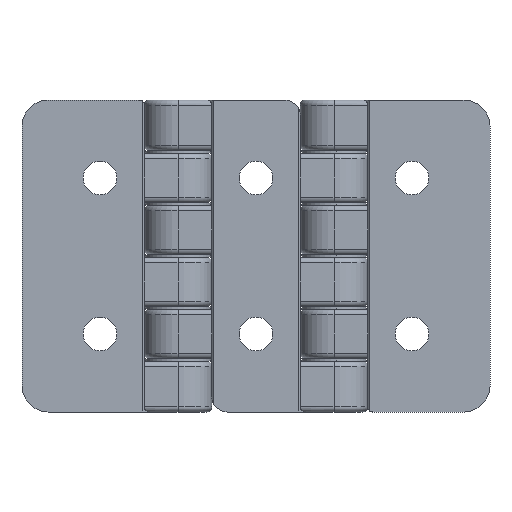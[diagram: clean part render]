
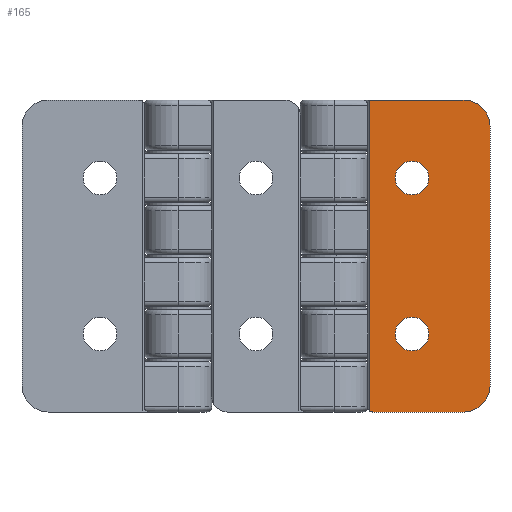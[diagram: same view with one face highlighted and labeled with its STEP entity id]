
A CAD part, front view. The second image highlights one B-rep face of the part: STEP entity #165.
In plain terms, the highlighted planar face has unit normal (0, -1, 0).
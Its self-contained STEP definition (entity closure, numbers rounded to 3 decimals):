
#165 = ADVANCED_FACE ( 'NONE', ( #2643, #2645, #2642 ), #2935, .T. ) ;
#844 = ORIENTED_EDGE ( 'NONE', *, *, #2125, .F. ) ;
#845 = ORIENTED_EDGE ( 'NONE', *, *, #2052, .F. ) ;
#846 = ORIENTED_EDGE ( 'NONE', *, *, #2126, .F. ) ;
#847 = ORIENTED_EDGE ( 'NONE', *, *, #2055, .F. ) ;
#848 = ORIENTED_EDGE ( 'NONE', *, *, #2127, .F. ) ;
#849 = ORIENTED_EDGE ( 'NONE', *, *, #2128, .T. ) ;
#850 = ORIENTED_EDGE ( 'NONE', *, *, #2129, .T. ) ;
#851 = ORIENTED_EDGE ( 'NONE', *, *, #2130, .T. ) ;
#852 = ORIENTED_EDGE ( 'NONE', *, *, #2124, .T. ) ;
#853 = ORIENTED_EDGE ( 'NONE', *, *, #2131, .T. ) ;
#854 = ORIENTED_EDGE ( 'NONE', *, *, #2132, .F. ) ;
#1276 = EDGE_LOOP ( 'NONE', ( #846, #847 ) ) ;
#1281 = EDGE_LOOP ( 'NONE', ( #848, #849, #850, #851, #852, #853, #854 ) ) ;
#1283 = EDGE_LOOP ( 'NONE', ( #844, #845 ) ) ;
#1580 = VERTEX_POINT ( 'NONE', #4363 ) ;
#1602 = VERTEX_POINT ( 'NONE', #4385 ) ;
#1605 = VERTEX_POINT ( 'NONE', #4388 ) ;
#1608 = VERTEX_POINT ( 'NONE', #4391 ) ;
#1611 = VERTEX_POINT ( 'NONE', #4394 ) ;
#1612 = VERTEX_POINT ( 'NONE', #4395 ) ;
#1614 = VERTEX_POINT ( 'NONE', #4397 ) ;
#1659 = VERTEX_POINT ( 'NONE', #4442 ) ;
#1660 = VERTEX_POINT ( 'NONE', #4443 ) ;
#1661 = VERTEX_POINT ( 'NONE', #4444 ) ;
#1663 = VERTEX_POINT ( 'NONE', #4446 ) ;
#2052 = EDGE_CURVE ( 'NONE', #1659, #1661, #4142, .T. ) ;
#2055 = EDGE_CURVE ( 'NONE', #1660, #1663, #4147, .T. ) ;
#2124 = EDGE_CURVE ( 'NONE', #1608, #1611, #5935, .T. ) ;
#2125 = EDGE_CURVE ( 'NONE', #1661, #1659, #5931, .T. ) ;
#2126 = EDGE_CURVE ( 'NONE', #1663, #1660, #5939, .T. ) ;
#2127 = EDGE_CURVE ( 'NONE', #1602, #1605, #5940, .T. ) ;
#2128 = EDGE_CURVE ( 'NONE', #1602, #1614, #5937, .T. ) ;
#2129 = EDGE_CURVE ( 'NONE', #1614, #1580, #5943, .T. ) ;
#2130 = EDGE_CURVE ( 'NONE', #1580, #1608, #5944, .T. ) ;
#2131 = EDGE_CURVE ( 'NONE', #1611, #1612, #5946, .T. ) ;
#2132 = EDGE_CURVE ( 'NONE', #1605, #1612, #5947, .T. ) ;
#2311 = AXIS2_PLACEMENT_3D ( 'NONE', #2934, #2930, #2936 ) ;
#2642 = FACE_OUTER_BOUND ( 'NONE', #1281, .T. ) ;
#2643 = FACE_BOUND ( 'NONE', #1283, .T. ) ;
#2645 = FACE_BOUND ( 'NONE', #1276, .T. ) ;
#2930 = DIRECTION ( 'NONE',  ( 0., -1., 0. ) ) ;
#2934 = CARTESIAN_POINT ( 'NONE',  ( 6.8, -6.8, -60. ) ) ;
#2935 = PLANE ( 'NONE',  #2311 ) ;
#2936 = DIRECTION ( 'NONE',  ( 1., 0., 0. ) ) ;
#4142 = CIRCLE ( 'NONE', #5243, 3.25 ) ;
#4147 = CIRCLE ( 'NONE', #5244, 3.25 ) ;
#4363 = CARTESIAN_POINT ( 'NONE',  ( 25., -6.8, -60. ) ) ;
#4385 = CARTESIAN_POINT ( 'NONE',  ( 6.8, -6.8, -59.714 ) ) ;
#4388 = CARTESIAN_POINT ( 'NONE',  ( 6.8, -6.8, 0. ) ) ;
#4391 = CARTESIAN_POINT ( 'NONE',  ( 30., -6.8, -55. ) ) ;
#4394 = CARTESIAN_POINT ( 'NONE',  ( 30., -6.8, -5. ) ) ;
#4395 = CARTESIAN_POINT ( 'NONE',  ( 25., -6.8, 0. ) ) ;
#4397 = CARTESIAN_POINT ( 'NONE',  ( 7.5, -6.8, -60. ) ) ;
#4442 = CARTESIAN_POINT ( 'NONE',  ( 11.75, -6.8, -45. ) ) ;
#4443 = CARTESIAN_POINT ( 'NONE',  ( 11.75, -6.8, -15. ) ) ;
#4444 = CARTESIAN_POINT ( 'NONE',  ( 18.25, -6.8, -45. ) ) ;
#4446 = CARTESIAN_POINT ( 'NONE',  ( 18.25, -6.8, -15. ) ) ;
#5155 = DIRECTION ( 'NONE',  ( 1., 0., 0. ) ) ;
#5243 = AXIS2_PLACEMENT_3D ( 'NONE', #5687, #5688, #5689 ) ;
#5244 = AXIS2_PLACEMENT_3D ( 'NONE', #5692, #5693, #5694 ) ;
#5271 = AXIS2_PLACEMENT_3D ( 'NONE', #5859, #5860, #5155 ) ;
#5272 = AXIS2_PLACEMENT_3D ( 'NONE', #6202, #6203, #6204 ) ;
#5273 = AXIS2_PLACEMENT_3D ( 'NONE', #6206, #6207, #6208 ) ;
#5274 = AXIS2_PLACEMENT_3D ( 'NONE', #6211, #6212, #6213 ) ;
#5275 = AXIS2_PLACEMENT_3D ( 'NONE', #6215, #6216, #6217 ) ;
#5687 = CARTESIAN_POINT ( 'NONE',  ( 15., -6.8, -45. ) ) ;
#5688 = DIRECTION ( 'NONE',  ( 0., -1., 0. ) ) ;
#5689 = DIRECTION ( 'NONE',  ( 1., 0., 0. ) ) ;
#5692 = CARTESIAN_POINT ( 'NONE',  ( 15., -6.8, -15. ) ) ;
#5693 = DIRECTION ( 'NONE',  ( 0., -1., 0. ) ) ;
#5694 = DIRECTION ( 'NONE',  ( 1., 0., 0. ) ) ;
#5855 = CARTESIAN_POINT ( 'NONE',  ( 30., -6.8, -60. ) ) ;
#5856 = DIRECTION ( 'NONE',  ( 0., 0., 1. ) ) ;
#5857 = CARTESIAN_POINT ( 'NONE',  ( 6.8, -6.8, -60. ) ) ;
#5858 = DIRECTION ( 'NONE',  ( 0., 0., 1. ) ) ;
#5859 = CARTESIAN_POINT ( 'NONE',  ( 15., -6.8, -45. ) ) ;
#5860 = DIRECTION ( 'NONE',  ( 0., -1., 0. ) ) ;
#5931 = CIRCLE ( 'NONE', #5271, 3.25 ) ;
#5935 = LINE ( 'NONE', #5855, #5938 ) ;
#5937 = CIRCLE ( 'NONE', #5273, 1. ) ;
#5938 = VECTOR ( 'NONE', #5856, 1000. ) ;
#5939 = CIRCLE ( 'NONE', #5272, 3.25 ) ;
#5940 = LINE ( 'NONE', #5857, #5942 ) ;
#5942 = VECTOR ( 'NONE', #5858, 1000. ) ;
#5943 = LINE ( 'NONE', #6205, #5945 ) ;
#5944 = CIRCLE ( 'NONE', #5274, 5. ) ;
#5945 = VECTOR ( 'NONE', #6201, 1000. ) ;
#5946 = CIRCLE ( 'NONE', #5275, 5. ) ;
#5947 = LINE ( 'NONE', #6209, #5948 ) ;
#5948 = VECTOR ( 'NONE', #6210, 1000. ) ;
#6201 = DIRECTION ( 'NONE',  ( 1., 0., 0. ) ) ;
#6202 = CARTESIAN_POINT ( 'NONE',  ( 15., -6.8, -15. ) ) ;
#6203 = DIRECTION ( 'NONE',  ( 0., -1., 0. ) ) ;
#6204 = DIRECTION ( 'NONE',  ( 1., 0., 0. ) ) ;
#6205 = CARTESIAN_POINT ( 'NONE',  ( 6.8, -6.8, -60. ) ) ;
#6206 = CARTESIAN_POINT ( 'NONE',  ( 7.5, -6.8, -59. ) ) ;
#6207 = DIRECTION ( 'NONE',  ( 0., -1., 0. ) ) ;
#6208 = DIRECTION ( 'NONE',  ( 1., 0., 0. ) ) ;
#6209 = CARTESIAN_POINT ( 'NONE',  ( 6.8, -6.8, 0. ) ) ;
#6210 = DIRECTION ( 'NONE',  ( 1., 0., 0. ) ) ;
#6211 = CARTESIAN_POINT ( 'NONE',  ( 25., -6.8, -55. ) ) ;
#6212 = DIRECTION ( 'NONE',  ( 0., -1., 0. ) ) ;
#6213 = DIRECTION ( 'NONE',  ( 1., 0., 0. ) ) ;
#6215 = CARTESIAN_POINT ( 'NONE',  ( 25., -6.8, -5. ) ) ;
#6216 = DIRECTION ( 'NONE',  ( 0., -1., 0. ) ) ;
#6217 = DIRECTION ( 'NONE',  ( 1., 0., 0. ) ) ;
